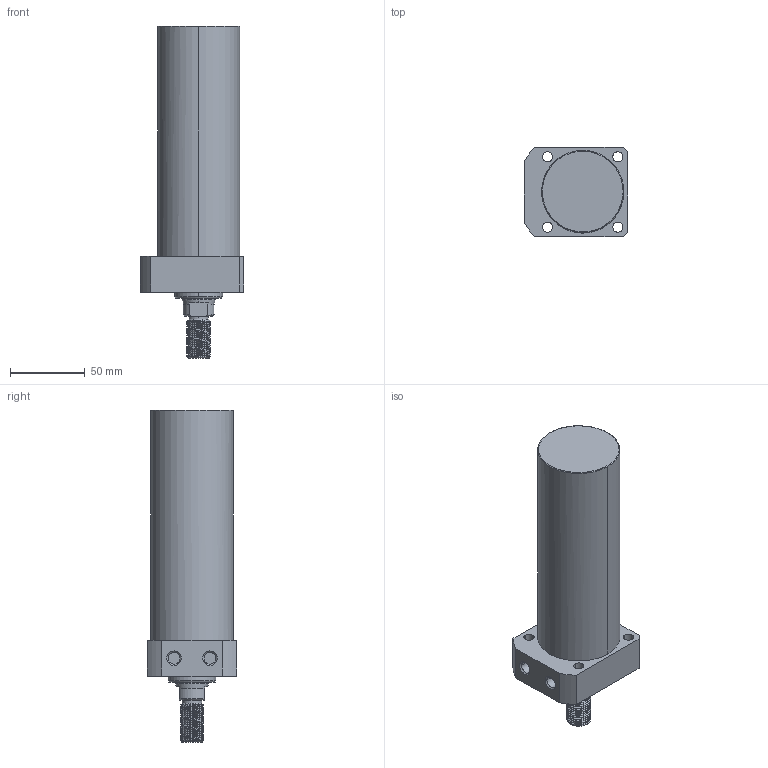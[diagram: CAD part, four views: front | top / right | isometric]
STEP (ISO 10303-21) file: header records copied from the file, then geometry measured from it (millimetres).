
FILE_DESCRIPTION((' '),'2;1');
FILE_NAME( 'TLLR-055CT-125.STEP.stp', '2025-10-24T16:34:49', (' '), ('--- Datakit www.datakit.com---'), ' Datakit CrossCadWare V2024.1 Dec 21 2023', 'Mastercam 2025', ' ');
FILE_SCHEMA(('AUTOMOTIVE_DESIGN { 1 0 10303 214 1 1 1 1 }'));
Length unit declared in the file: millimetre
Products named in the file (1): TLLR-055CT-125
Bounding box: 69 x 60 x 222 mm (x, y, z)
Volume: 470598 mm3; surface area: 46431.5 mm2
Topology: 1 solids, 1 shells, 101 faces, 356 edges, 265 vertices
Faces by surface type: cylinder 61, plane 20, cone 16, bspline 2, torus 2
Entity records: 11234 total; most frequent: CARTESIAN_POINT 8154, ORIENTED_EDGE 712, DIRECTION 516, EDGE_CURVE 356, VERTEX_POINT 265, AXIS2_PLACEMENT_3D 209, B_SPLINE_CURVE_WITH_KNOTS 149, EDGE_LOOP 117
